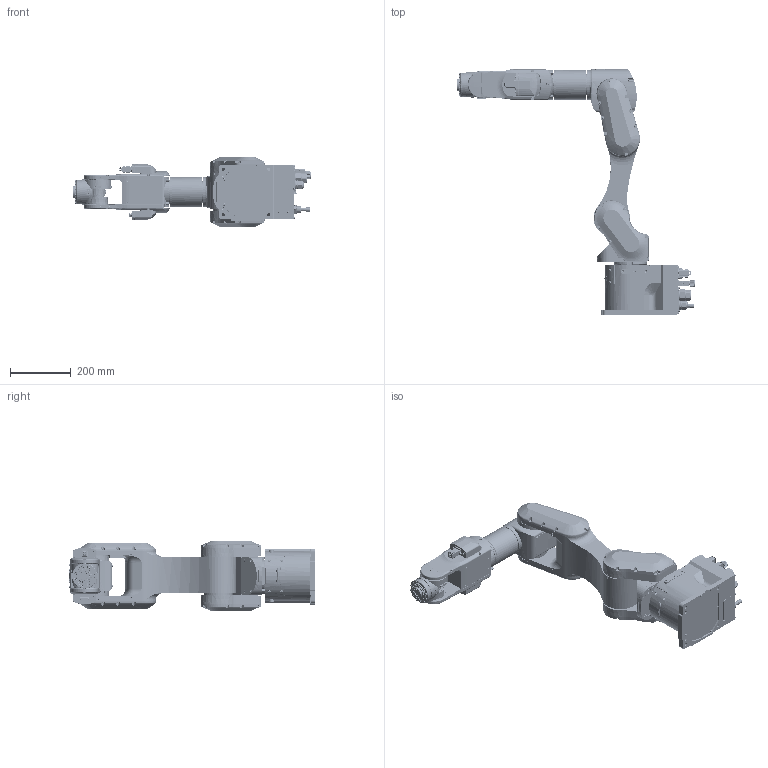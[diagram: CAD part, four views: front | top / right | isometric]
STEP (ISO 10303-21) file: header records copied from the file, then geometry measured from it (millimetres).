
FILE_DESCRIPTION (( 'STEP AP214' ), '1' );
FILE_NAME ('CX7-x901P.STEP', '2026-07-27T17:44:34', ( '' ), ( '' ), 'SwSTEP 2.0', 'SolidWorks 2020', '' );
FILE_SCHEMA (( 'AUTOMOTIVE_DESIGN' ));
Length unit declared in the file: millimetre
Products named in the file (8): CX7-x901P; CX7-A901P_BASE; CX7-A901P_J3; CX7-A901P_J5; CX7-A901P_J2; CX7-A901P_J6; CX7-A901P_J1; CX7-A901P_J4
Assembly tree (7 placements, depth 2):
  CX7-x901P
    CX7-A901P_BASE
    CX7-A901P_J1
    CX7-A901P_J2
    CX7-A901P_J3
    CX7-A901P_J4
    CX7-A901P_J5
    CX7-A901P_J6
Bounding box: 787 x 812 x 228 mm (x, y, z)
Volume: 8806324.8 mm3; surface area: 1245017.2 mm2
Topology: 4 solids, 8 shells, 5377 faces, 13313 edges, 8280 vertices
Faces by surface type: plane 1991, cylinder 1809, cone 972, torus 497, bspline 71, sphere 37
Entity records: 246451 total; most frequent: CARTESIAN_POINT 107414, ORIENTED_EDGE 26314, DIRECTION 16210, EDGE_CURVE 13163, B_SPLINE_CURVE_WITH_KNOTS 9492, VERTEX_POINT 8280, AXIS2_PLACEMENT_3D 7267, EDGE_LOOP 5894
